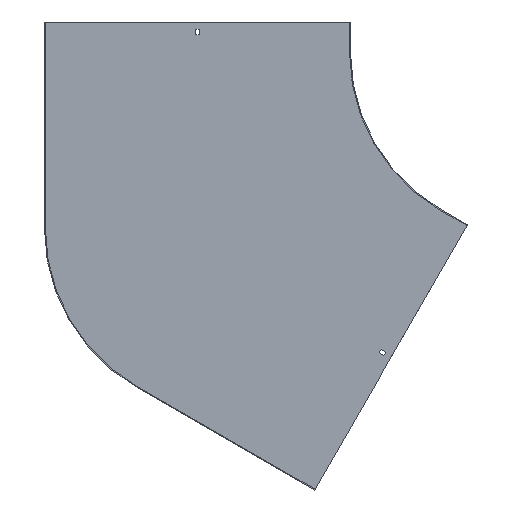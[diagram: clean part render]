
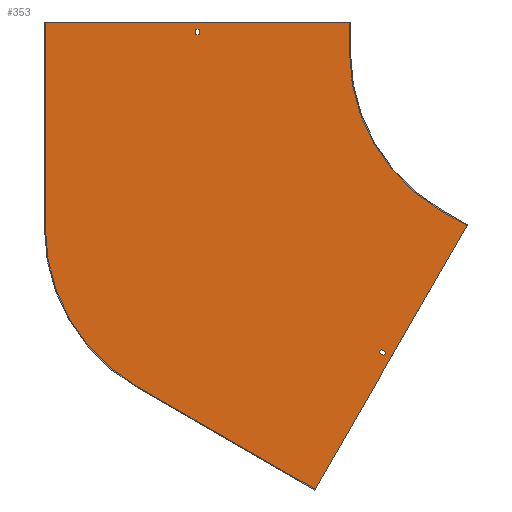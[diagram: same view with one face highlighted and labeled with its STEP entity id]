
A CAD part, front view. The second image highlights one B-rep face of the part: STEP entity #353.
In plain terms, the highlighted planar face has unit normal (0, -1, 0).
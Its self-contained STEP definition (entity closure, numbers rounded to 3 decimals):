
#5 = VERTEX_POINT ( 'NONE', #471 ) ;
#12 = LINE ( 'NONE', #62, #453 ) ;
#14 = VECTOR ( 'NONE', #137, 1000. ) ;
#21 = CARTESIAN_POINT ( 'NONE',  ( -801.5, -1.5, 50. ) ) ;
#30 = EDGE_CURVE ( 'NONE', #166, #563, #730, .T. ) ;
#38 = CARTESIAN_POINT ( 'NONE',  ( -553.25, -1.5, 38. ) ) ;
#53 = DIRECTION ( 'NONE',  ( 0., 0., -1. ) ) ;
#62 = CARTESIAN_POINT ( 'NONE',  ( -105.949, -1.5, -283.509 ) ) ;
#74 = AXIS2_PLACEMENT_3D ( 'NONE', #370, #649, #53 ) ;
#80 = DIRECTION ( 'NONE',  ( -0.866, 0., 0.5 ) ) ;
#87 = VERTEX_POINT ( 'NONE', #486 ) ;
#91 = LINE ( 'NONE', #363, #349 ) ;
#103 = PLANE ( 'NONE',  #74 ) ;
#122 = CARTESIAN_POINT ( 'NONE',  ( -650., -1.5, -548.483 ) ) ;
#124 = ORIENTED_EDGE ( 'NONE', *, *, #216, .F. ) ;
#128 = ORIENTED_EDGE ( 'NONE', *, *, #138, .T. ) ;
#137 = DIRECTION ( 'NONE',  ( 0.866, 0., -0.5 ) ) ;
#138 = EDGE_CURVE ( 'NONE', #290, #589, #602, .T. ) ;
#146 = DIRECTION ( 'NONE',  ( -0.5, 0., -0.866 ) ) ;
#153 = EDGE_CURVE ( 'NONE', #708, #246, #194, .T. ) ;
#166 = VERTEX_POINT ( 'NONE', #393 ) ;
#167 = EDGE_CURVE ( 'NONE', #87, #166, #661, .T. ) ;
#181 = CARTESIAN_POINT ( 'NONE',  ( -273.375, -1.5, -473.499 ) ) ;
#188 = FACE_BOUND ( 'NONE', #806, .T. ) ;
#190 = EDGE_CURVE ( 'NONE', #594, #87, #859, .T. ) ;
#194 = CIRCLE ( 'NONE', #596, 300. ) ;
#197 = EDGE_CURVE ( 'NONE', #5, #555, #664, .T. ) ;
#202 = CARTESIAN_POINT ( 'NONE',  ( 0., -1.5, 38. ) ) ;
#203 = CARTESIAN_POINT ( 'NONE',  ( -300., -1.5, 50. ) ) ;
#204 = LINE ( 'NONE', #560, #577 ) ;
#206 = DIRECTION ( 'NONE',  ( 0., 0., -1. ) ) ;
#210 = DIRECTION ( 'NONE',  ( 0., 0., 1. ) ) ;
#216 = EDGE_CURVE ( 'NONE', #246, #656, #335, .T. ) ;
#224 = ORIENTED_EDGE ( 'NONE', *, *, #692, .F. ) ;
#234 = DIRECTION ( 'NONE',  ( -0.866, 0., 0.5 ) ) ;
#243 = CARTESIAN_POINT ( 'NONE',  ( -546.75, -1.5, 0. ) ) ;
#246 = VERTEX_POINT ( 'NONE', #307 ) ;
#256 = VECTOR ( 'NONE', #210, 1000. ) ;
#266 = EDGE_CURVE ( 'NONE', #589, #786, #693, .T. ) ;
#269 = DIRECTION ( 'NONE',  ( 1., 0., 0. ) ) ;
#275 = DIRECTION ( 'NONE',  ( 1., 0., 0. ) ) ;
#277 = CARTESIAN_POINT ( 'NONE',  ( 32.909, -1.5, -19. ) ) ;
#288 = ORIENTED_EDGE ( 'NONE', *, *, #167, .F. ) ;
#290 = VERTEX_POINT ( 'NONE', #38 ) ;
#291 = EDGE_CURVE ( 'NONE', #786, #630, #591, .T. ) ;
#301 = EDGE_CURVE ( 'NONE', #676, #594, #855, .T. ) ;
#303 = DIRECTION ( 'NONE',  ( -0.5, 0., -0.866 ) ) ;
#307 = CARTESIAN_POINT ( 'NONE',  ( -150., -1.5, -259.808 ) ) ;
#309 = ORIENTED_EDGE ( 'NONE', *, *, #657, .F. ) ;
#320 = EDGE_CURVE ( 'NONE', #770, #5, #91, .T. ) ;
#328 = DIRECTION ( 'NONE',  ( 0.5, 0., 0.866 ) ) ;
#333 = ORIENTED_EDGE ( 'NONE', *, *, #659, .T. ) ;
#334 = DIRECTION ( 'NONE',  ( 0., 0., -1. ) ) ;
#335 = LINE ( 'NONE', #858, #415 ) ;
#341 = LINE ( 'NONE', #277, #777 ) ;
#349 = VECTOR ( 'NONE', #303, 1000. ) ;
#353 = ADVANCED_FACE ( 'NONE', ( #188, #583, #705 ), #103, .T. ) ;
#363 = CARTESIAN_POINT ( 'NONE',  ( 25.115, -1.5, -14.5 ) ) ;
#370 = CARTESIAN_POINT ( 'NONE',  ( 0., -1.5, 0. ) ) ;
#383 = EDGE_LOOP ( 'NONE', ( #394, #288, #700, #424, #309, #124, #515, #569 ) ) ;
#384 = CARTESIAN_POINT ( 'NONE',  ( -500., -1.5, -288.675 ) ) ;
#385 = CARTESIAN_POINT ( 'NONE',  ( -243.716, -1.5, -498.129 ) ) ;
#389 = VECTOR ( 'NONE', #234, 1000. ) ;
#393 = CARTESIAN_POINT ( 'NONE',  ( -800., -1.5, 50. ) ) ;
#394 = ORIENTED_EDGE ( 'NONE', *, *, #30, .F. ) ;
#415 = VECTOR ( 'NONE', #523, 1000. ) ;
#424 = ORIENTED_EDGE ( 'NONE', *, *, #301, .F. ) ;
#443 = DIRECTION ( 'NONE',  ( -1., 0., 0. ) ) ;
#451 = VECTOR ( 'NONE', #269, 1000. ) ;
#453 = VECTOR ( 'NONE', #146, 1000. ) ;
#461 = CARTESIAN_POINT ( 'NONE',  ( -300., -1.5, 0. ) ) ;
#471 = CARTESIAN_POINT ( 'NONE',  ( -251.51, -1.5, -493.629 ) ) ;
#472 = DIRECTION ( 'NONE',  ( 0., 1., 0. ) ) ;
#486 = CARTESIAN_POINT ( 'NONE',  ( -800., -1.5, -288.675 ) ) ;
#508 = CARTESIAN_POINT ( 'NONE',  ( -248.26, -1.5, -487.999 ) ) ;
#515 = ORIENTED_EDGE ( 'NONE', *, *, #153, .F. ) ;
#516 = CARTESIAN_POINT ( 'NONE',  ( 0., -1.5, 29. ) ) ;
#519 = VERTEX_POINT ( 'NONE', #841 ) ;
#522 = ORIENTED_EDGE ( 'NONE', *, *, #197, .F. ) ;
#523 = DIRECTION ( 'NONE',  ( 0.866, 0., -0.5 ) ) ;
#540 = LINE ( 'NONE', #809, #862 ) ;
#548 = DIRECTION ( 'NONE',  ( 0., 0., 1. ) ) ;
#555 = VERTEX_POINT ( 'NONE', #385 ) ;
#560 = CARTESIAN_POINT ( 'NONE',  ( -553.25, -1.5, 0. ) ) ;
#563 = VERTEX_POINT ( 'NONE', #203 ) ;
#569 = ORIENTED_EDGE ( 'NONE', *, *, #719, .F. ) ;
#577 = VECTOR ( 'NONE', #548, 1000. ) ;
#583 = FACE_OUTER_BOUND ( 'NONE', #383, .T. ) ;
#589 = VERTEX_POINT ( 'NONE', #722 ) ;
#591 = LINE ( 'NONE', #516, #666 ) ;
#594 = VERTEX_POINT ( 'NONE', #122 ) ;
#596 = AXIS2_PLACEMENT_3D ( 'NONE', #803, #610, #863 ) ;
#602 = LINE ( 'NONE', #202, #451 ) ;
#610 = DIRECTION ( 'NONE',  ( 0., -1., 0. ) ) ;
#614 = CARTESIAN_POINT ( 'NONE',  ( -106.699, -1.5, -284.808 ) ) ;
#618 = CARTESIAN_POINT ( 'NONE',  ( -546.75, -1.5, 29. ) ) ;
#623 = AXIS2_PLACEMENT_3D ( 'NONE', #384, #472, #206 ) ;
#630 = VERTEX_POINT ( 'NONE', #826 ) ;
#635 = VECTOR ( 'NONE', #275, 1000. ) ;
#647 = CARTESIAN_POINT ( 'NONE',  ( -356.699, -1.5, -717.82 ) ) ;
#649 = DIRECTION ( 'NONE',  ( 0., -1., 0. ) ) ;
#656 = VERTEX_POINT ( 'NONE', #614 ) ;
#657 = EDGE_CURVE ( 'NONE', #656, #676, #12, .T. ) ;
#659 = EDGE_CURVE ( 'NONE', #630, #290, #204, .T. ) ;
#661 = LINE ( 'NONE', #673, #256 ) ;
#664 = LINE ( 'NONE', #737, #14 ) ;
#666 = VECTOR ( 'NONE', #443, 1000. ) ;
#668 = VECTOR ( 'NONE', #80, 1000. ) ;
#673 = CARTESIAN_POINT ( 'NONE',  ( -800., -1.5, -288.675 ) ) ;
#676 = VERTEX_POINT ( 'NONE', #647 ) ;
#685 = ORIENTED_EDGE ( 'NONE', *, *, #320, .F. ) ;
#692 = EDGE_CURVE ( 'NONE', #555, #519, #341, .T. ) ;
#693 = LINE ( 'NONE', #243, #776 ) ;
#700 = ORIENTED_EDGE ( 'NONE', *, *, #190, .F. ) ;
#705 = FACE_BOUND ( 'NONE', #775, .T. ) ;
#708 = VERTEX_POINT ( 'NONE', #461 ) ;
#719 = EDGE_CURVE ( 'NONE', #563, #708, #540, .T. ) ;
#722 = CARTESIAN_POINT ( 'NONE',  ( -546.75, -1.5, 38. ) ) ;
#730 = LINE ( 'NONE', #21, #635 ) ;
#731 = LINE ( 'NONE', #181, #668 ) ;
#737 = CARTESIAN_POINT ( 'NONE',  ( -276.625, -1.5, -479.129 ) ) ;
#770 = VERTEX_POINT ( 'NONE', #508 ) ;
#775 = EDGE_LOOP ( 'NONE', ( #128, #850, #818, #333 ) ) ;
#776 = VECTOR ( 'NONE', #791, 1000. ) ;
#777 = VECTOR ( 'NONE', #328, 1000. ) ;
#778 = EDGE_CURVE ( 'NONE', #519, #770, #731, .T. ) ;
#784 = CARTESIAN_POINT ( 'NONE',  ( -356.699, -1.5, -717.82 ) ) ;
#786 = VERTEX_POINT ( 'NONE', #618 ) ;
#791 = DIRECTION ( 'NONE',  ( 0., 0., -1. ) ) ;
#802 = ORIENTED_EDGE ( 'NONE', *, *, #778, .F. ) ;
#803 = CARTESIAN_POINT ( 'NONE',  ( 0., -1.5, 0. ) ) ;
#806 = EDGE_LOOP ( 'NONE', ( #802, #224, #522, #685 ) ) ;
#809 = CARTESIAN_POINT ( 'NONE',  ( -300., -1.5, 50. ) ) ;
#818 = ORIENTED_EDGE ( 'NONE', *, *, #291, .T. ) ;
#826 = CARTESIAN_POINT ( 'NONE',  ( -553.25, -1.5, 29. ) ) ;
#841 = CARTESIAN_POINT ( 'NONE',  ( -240.466, -1.5, -492.499 ) ) ;
#850 = ORIENTED_EDGE ( 'NONE', *, *, #266, .T. ) ;
#855 = LINE ( 'NONE', #784, #389 ) ;
#858 = CARTESIAN_POINT ( 'NONE',  ( -150., -1.5, -259.808 ) ) ;
#859 = CIRCLE ( 'NONE', #623, 300. ) ;
#862 = VECTOR ( 'NONE', #334, 1000. ) ;
#863 = DIRECTION ( 'NONE',  ( 0., 0., -1. ) ) ;
